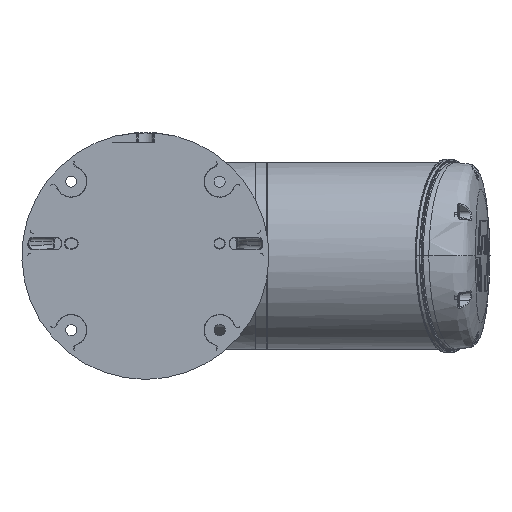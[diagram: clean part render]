
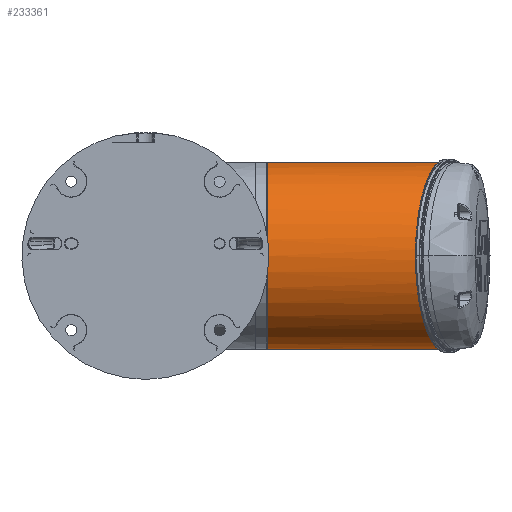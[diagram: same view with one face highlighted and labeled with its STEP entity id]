
A CAD part, front view. The second image highlights one B-rep face of the part: STEP entity #233361.
In plain terms, the highlighted cylindrical face has radius 76 mm (diameter 152 mm), a partial arc.
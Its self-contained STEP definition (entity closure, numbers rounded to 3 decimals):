
#225 = CARTESIAN_POINT ( 'NONE',  ( 46.791, -23.371, 268.782 ) ) ;
#3241 = CARTESIAN_POINT ( 'NONE',  ( -105.209, -23.371, 258.681 ) ) ;
#4023 = CARTESIAN_POINT ( 'NONE',  ( -105.209, -23.371, 152.656 ) ) ;
#4815 = CARTESIAN_POINT ( 'NONE',  ( -105.209, -23.371, 179.656 ) ) ;
#4976 = CARTESIAN_POINT ( 'NONE',  ( -105.209, -175.371, 220.856 ) ) ;
#21929 = CARTESIAN_POINT ( 'NONE',  ( -105.209, -23.371, 268.782 ) ) ;
#22732 = CARTESIAN_POINT ( 'NONE',  ( -105.209, -23.371, 175.156 ) ) ;
#23533 = CARTESIAN_POINT ( 'NONE',  ( -105.209, -23.371, 266.257 ) ) ;
#23977 = EDGE_CURVE ( 'NONE', #171802, #128571, #45782, .T. ) ;
#29392 = CYLINDRICAL_SURFACE ( 'NONE', #239922, 76. ) ;
#34115 = CARTESIAN_POINT ( 'NONE',  ( 46.791, -23.371, 268.782 ) ) ;
#39826 = CARTESIAN_POINT ( 'NONE',  ( -105.209, -23.371, 202.156 ) ) ;
#40503 = CARTESIAN_POINT ( 'NONE',  ( 46.791, -23.371, 219.573 ) ) ;
#41403 = CARTESIAN_POINT ( 'NONE',  ( -105.209, -23.371, 215.656 ) ) ;
#42369 = CARTESIAN_POINT ( 'NONE',  ( 46.791, -175.371, 220.856 ) ) ;
#43839 = B_SPLINE_CURVE_WITH_KNOTS ( 'NONE', 5,
 ( #79528, #169703, #77125, #117676, #207835, #226561, #4023, #210240, #188359, #77928, #22732, #4815, #209454, #58488, #207037, #39826, #152606, #41403, #171286, #228972, #95862, #225793, #114489, #153417, #97418, #3241, #78719, #133193, #23533, #21929 ),
 .UNSPECIFIED., .F., .F.,
 ( 6, 4, 4, 4, 4, 4, 4, 6 ),
 ( 0., 0.125, 0.25, 0.375, 0.5, 0.625, 0.75, 0.82 ),
 .UNSPECIFIED. ) ;
#45782 = B_SPLINE_CURVE_WITH_KNOTS ( 'NONE', 3,
 ( #150936, #133089, #40503, #206937 ),
 .UNSPECIFIED., .F., .F.,
 ( 4, 4 ),
 ( 0., 0.82 ),
 .UNSPECIFIED. ) ;
#45871 = DIRECTION ( 'NONE',  ( 1., 0., 0. ) ) ;
#47491 = CARTESIAN_POINT ( 'NONE',  ( -29.209, -23.371, 121.156 ) ) ;
#50779 = ORIENTED_EDGE ( 'NONE', *, *, #172257, .F. ) ;
#52681 = FACE_OUTER_BOUND ( 'NONE', #152197, .T. ) ;
#58488 = CARTESIAN_POINT ( 'NONE',  ( -105.209, -23.371, 193.156 ) ) ;
#58949 = CARTESIAN_POINT ( 'NONE',  ( -105.209, -23.371, 121.156 ) ) ;
#61805 = CARTESIAN_POINT ( 'NONE',  ( -29.209, -23.371, 121.156 ) ) ;
#74032 = CIRCLE ( 'NONE', #146417, 76. ) ;
#77125 = CARTESIAN_POINT ( 'NONE',  ( -105.209, -23.371, 130.156 ) ) ;
#77928 = CARTESIAN_POINT ( 'NONE',  ( -105.209, -23.371, 170.656 ) ) ;
#78719 = CARTESIAN_POINT ( 'NONE',  ( -105.209, -23.371, 261.206 ) ) ;
#79528 = CARTESIAN_POINT ( 'NONE',  ( -105.209, -23.371, 121.156 ) ) ;
#79689 = CARTESIAN_POINT ( 'NONE',  ( -105.209, -23.371, 268.782 ) ) ;
#80459 = DIRECTION ( 'NONE',  ( -1., 0., 0. ) ) ;
#85664 =( BOUNDED_CURVE ( )  B_SPLINE_CURVE ( 3, ( #225, #42369, #4976, #79689 ),
 .UNSPECIFIED., .F., .F. ) 
 B_SPLINE_CURVE_WITH_KNOTS ( ( 4, 4 ),
 ( 1.571, 4.712 ),
 .UNSPECIFIED. ) 
 CURVE ( )  GEOMETRIC_REPRESENTATION_ITEM ( )  RATIONAL_B_SPLINE_CURVE ( ( 1., 0.333, 0.333, 1. ) ) 
 REPRESENTATION_ITEM ( '' )  );
#95862 = CARTESIAN_POINT ( 'NONE',  ( -105.209, -23.371, 229.156 ) ) ;
#97418 = CARTESIAN_POINT ( 'NONE',  ( -105.209, -23.371, 251.656 ) ) ;
#112388 = EDGE_CURVE ( 'NONE', #128571, #162811, #85664, .T. ) ;
#114489 = CARTESIAN_POINT ( 'NONE',  ( -105.209, -23.371, 242.656 ) ) ;
#117676 = CARTESIAN_POINT ( 'NONE',  ( -105.209, -23.371, 134.656 ) ) ;
#128571 = VERTEX_POINT ( 'NONE', #34115 ) ;
#133089 = CARTESIAN_POINT ( 'NONE',  ( 46.791, -23.371, 170.365 ) ) ;
#133193 = CARTESIAN_POINT ( 'NONE',  ( -105.209, -23.371, 263.731 ) ) ;
#140064 = DIRECTION ( 'NONE',  ( 0., 0., -1. ) ) ;
#146417 = AXIS2_PLACEMENT_3D ( 'NONE', #47491, #140064, #45871 ) ;
#150613 = VERTEX_POINT ( 'NONE', #58949 ) ;
#150936 = CARTESIAN_POINT ( 'NONE',  ( 46.791, -23.371, 121.156 ) ) ;
#152197 = EDGE_LOOP ( 'NONE', ( #168351, #232706, #50779, #185427 ) ) ;
#152606 = CARTESIAN_POINT ( 'NONE',  ( -105.209, -23.371, 206.656 ) ) ;
#153417 = CARTESIAN_POINT ( 'NONE',  ( -105.209, -23.371, 247.156 ) ) ;
#162811 = VERTEX_POINT ( 'NONE', #209827 ) ;
#168351 = ORIENTED_EDGE ( 'NONE', *, *, #23977, .T. ) ;
#169703 = CARTESIAN_POINT ( 'NONE',  ( -105.209, -23.371, 125.656 ) ) ;
#171286 = CARTESIAN_POINT ( 'NONE',  ( -105.209, -23.371, 220.156 ) ) ;
#171802 = VERTEX_POINT ( 'NONE', #196687 ) ;
#172257 = EDGE_CURVE ( 'NONE', #150613, #162811, #43839, .T. ) ;
#185427 = ORIENTED_EDGE ( 'NONE', *, *, #198471, .F. ) ;
#188359 = CARTESIAN_POINT ( 'NONE',  ( -105.209, -23.371, 161.656 ) ) ;
#191694 = DIRECTION ( 'NONE',  ( 0., 0., 1. ) ) ;
#196687 = CARTESIAN_POINT ( 'NONE',  ( 46.791, -23.371, 121.156 ) ) ;
#198471 = EDGE_CURVE ( 'NONE', #171802, #150613, #74032, .T. ) ;
#206937 = CARTESIAN_POINT ( 'NONE',  ( 46.791, -23.371, 268.782 ) ) ;
#207037 = CARTESIAN_POINT ( 'NONE',  ( -105.209, -23.371, 197.656 ) ) ;
#207835 = CARTESIAN_POINT ( 'NONE',  ( -105.209, -23.371, 139.156 ) ) ;
#209454 = CARTESIAN_POINT ( 'NONE',  ( -105.209, -23.371, 184.156 ) ) ;
#209827 = CARTESIAN_POINT ( 'NONE',  ( -105.209, -23.371, 268.782 ) ) ;
#210240 = CARTESIAN_POINT ( 'NONE',  ( -105.209, -23.371, 157.156 ) ) ;
#225793 = CARTESIAN_POINT ( 'NONE',  ( -105.209, -23.371, 238.156 ) ) ;
#226561 = CARTESIAN_POINT ( 'NONE',  ( -105.209, -23.371, 148.156 ) ) ;
#228972 = CARTESIAN_POINT ( 'NONE',  ( -105.209, -23.371, 224.656 ) ) ;
#232706 = ORIENTED_EDGE ( 'NONE', *, *, #112388, .T. ) ;
#233361 = ADVANCED_FACE ( 'NONE', ( #52681 ), #29392, .T. ) ;
#239922 = AXIS2_PLACEMENT_3D ( 'NONE', #61805, #191694, #80459 ) ;
